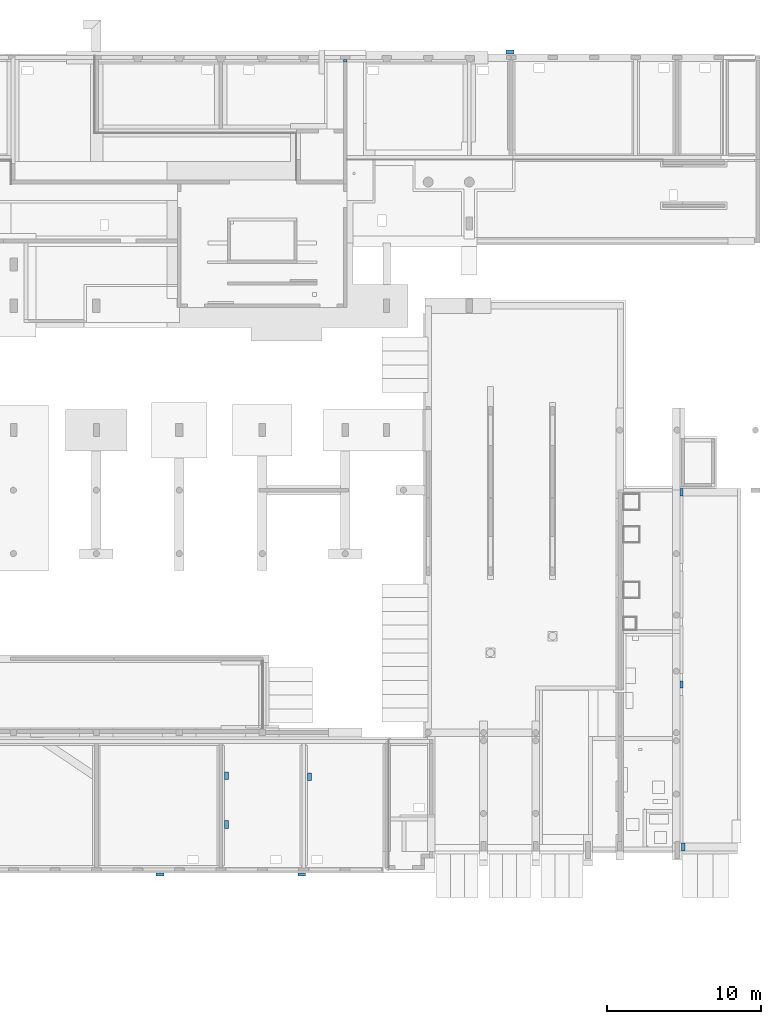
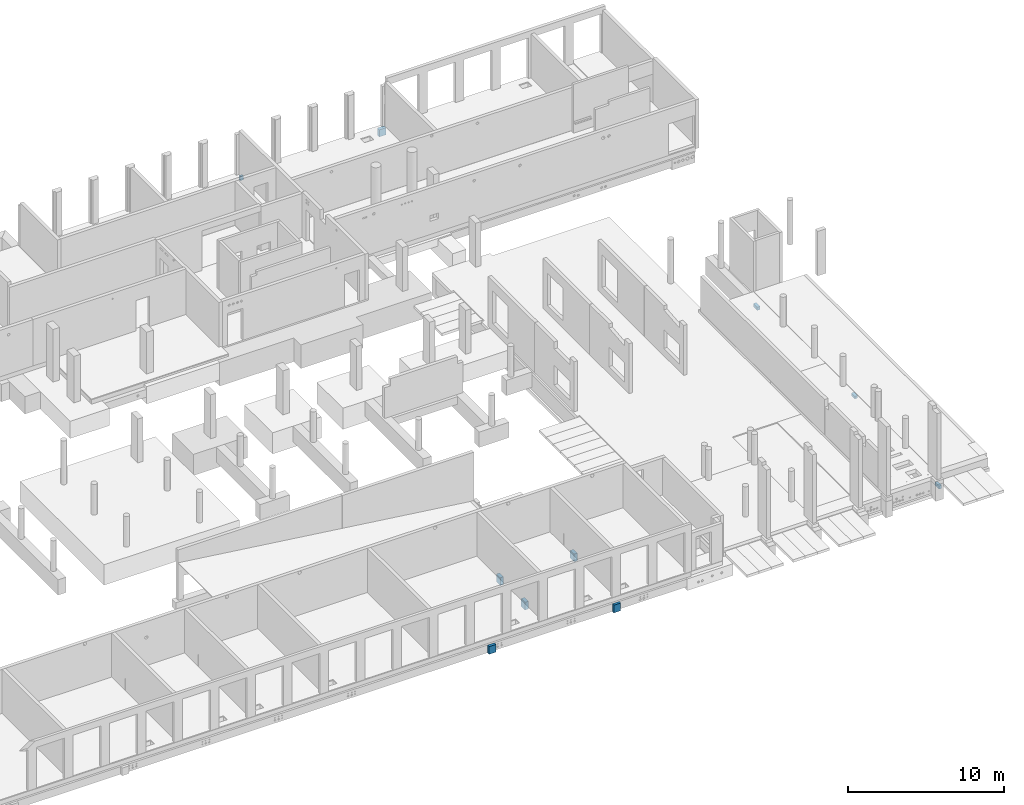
# One storey, part 11 of 60: 10 footings.
"""IFC2X3 building model written with IfcOpenShell, lengths in millimetres."""

from ifc_helpers import new_model, entity, si_unit, converted_unit, derived_unit, direction, frame, frame_2d, origin, origin_2d_with_axis, place, context, subcontext, project, spatial, rectangle, extrude, material, element, save


model = new_model("IFC2X3")

# Units and contexts
model_context = context("Model", 3, precision=0.01, world=origin(), true_north=direction((6.12303176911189e-17, 1.0)))
body_context = subcontext(model_context, "Body", "Model", "MODEL_VIEW")
ifc_project = project(units=[si_unit("LENGTHUNIT", "METRE", prefix="MILLI"), si_unit("AREAUNIT", "SQUARE_METRE"), si_unit("VOLUMEUNIT", "CUBIC_METRE"), converted_unit("PLANEANGLEUNIT", "DEGREE", entity("IfcRatioMeasure", 0.0174532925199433), si_unit("PLANEANGLEUNIT", "RADIAN"), dimensions=[0, 0, 0, 0, 0, 0, 0]), si_unit("MASSUNIT", "GRAM", prefix="KILO"), derived_unit("MASSDENSITYUNIT", [(si_unit("MASSUNIT", "GRAM", prefix="KILO"), 1), (si_unit("LENGTHUNIT", "METRE"), -3)]), si_unit("TIMEUNIT", "SECOND"), si_unit("FREQUENCYUNIT", "HERTZ"), si_unit("THERMODYNAMICTEMPERATUREUNIT", "DEGREE_CELSIUS"), derived_unit("THERMALTRANSMITTANCEUNIT", [(si_unit("MASSUNIT", "GRAM", prefix="KILO"), 1), (si_unit("THERMODYNAMICTEMPERATUREUNIT", "KELVIN"), -1), (si_unit("TIMEUNIT", "SECOND"), -3)]), derived_unit("VOLUMETRICFLOWRATEUNIT", [(si_unit("LENGTHUNIT", "METRE"), 3), (si_unit("TIMEUNIT", "SECOND"), -1)]), si_unit("ELECTRICCURRENTUNIT", "AMPERE"), si_unit("ELECTRICVOLTAGEUNIT", "VOLT"), si_unit("POWERUNIT", "WATT"), si_unit("FORCEUNIT", "NEWTON", prefix="KILO"), si_unit("ILLUMINANCEUNIT", "LUX"), si_unit("LUMINOUSFLUXUNIT", "LUMEN"), si_unit("LUMINOUSINTENSITYUNIT", "CANDELA"), derived_unit("USERDEFINED", [(si_unit("MASSUNIT", "GRAM", prefix="KILO"), -1), (si_unit("LENGTHUNIT", "METRE"), -2), (si_unit("TIMEUNIT", "SECOND"), 3), (si_unit("LUMINOUSFLUXUNIT", "LUMEN"), 1)]), derived_unit("LINEARVELOCITYUNIT", [(si_unit("LENGTHUNIT", "METRE"), 1), (si_unit("TIMEUNIT", "SECOND"), -1)]), si_unit("PRESSUREUNIT", "PASCAL"), derived_unit("USERDEFINED", [(si_unit("LENGTHUNIT", "METRE"), -2), (si_unit("MASSUNIT", "GRAM", prefix="KILO"), 1), (si_unit("TIMEUNIT", "SECOND"), -2)])], contexts=[model_context])

# Site, building, storey
site_placement = place(None, origin())
site = spatial("IfcSite", under=ifc_project, at=site_placement, Name="Default", CompositionType="ELEMENT")
building_placement = place(site_placement, origin())
building = spatial("IfcBuilding", under=site, at=building_placement, Name="niet gebruiken", CompositionType="ELEMENT")
storey_placement = place(building_placement, origin())
storey = spatial("IfcBuildingStorey", under=building, at=storey_placement, Name="00 begane grond", CompositionType="ELEMENT", Elevation=0.0)

# Footings
ifc_material = material(Name="NLRS_f2_beton ihwg")
footing_1_placement = place(storey_placement, origin())
element("IfcFooting", 1, at=footing_1_placement, inside=storey, material=ifc_material, Name="NLRS_16.12_SF_WPB_opstort ihwg recht_gen:250x332", ObjectType="NLRS_16.12_SF_WPB_opstort ihwg recht_gen:250x332", PredefinedType="FOOTING_BEAM", context=body_context, shape_type="SweptSolid", body=[
    extrude(rectangle(XDim=160.000000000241, YDim=249.999999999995, at=frame_2d((0.0, -8.66151594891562e-12), x_axis=(1.0, 0.0))), frame((97200.0, 52926.0, -492.0), z_axis=(0.0, 0.0, 1.0), x_axis=(0.0, -1.0, 0.0)), (0.0, 0.0, 1.0), 331.999999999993),
])
footing_2_placement = place(storey_placement, origin())
element("IfcFooting", 2, at=footing_2_placement, inside=storey, material=ifc_material, Name="NLRS_16.12_SF_WPB_funderingsbalk ihwg recht_gen:200x200", ObjectType="NLRS_16.12_SF_WPB_funderingsbalk ihwg recht_gen:200x200", PredefinedType="FOOTING_BEAM", context=body_context, shape_type="SweptSolid", body=[
    extrude(rectangle(XDim=449.999999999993, YDim=200.000000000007, at=frame_2d((1.08002495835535e-12, 0.0), x_axis=(1.0, 0.0))), frame((119100.0, 12326.0, -505.0), z_axis=(0.0, 0.0, 1.0), x_axis=(0.0, 1.0, 0.0)), (0.0, 0.0, 1.0), 199.999999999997),
])
footing_3_placement = place(storey_placement, origin())
element("IfcFooting", 3, at=footing_3_placement, inside=storey, material=ifc_material, Name="NLRS_16.12_SF_WPB_funderingsbalk ihwg recht_gen:200x250", ObjectType="NLRS_16.12_SF_WPB_funderingsbalk ihwg recht_gen:200x250", PredefinedType="FOOTING_BEAM", context=body_context, shape_type="SweptSolid", body=[
    extrude(rectangle(XDim=500.0, YDim=200.000000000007, at=frame_2d((1.27897692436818e-13, 0.0), x_axis=(1.0, 0.0))), frame((119200.0, 1750.0, -1170.0), z_axis=(0.0, 0.0, 1.0), x_axis=(0.0, 1.0, 0.0)), (0.0, 0.0, 1.0), 249.999999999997),
])
footing_4_placement = place(storey_placement, origin())
element("IfcFooting", 4, at=footing_4_placement, inside=storey, material=ifc_material, Name="NLRS_16.12_SF_WPB_funderingsbalk ihwg recht_gen:200x250", ObjectType="NLRS_16.12_SF_WPB_funderingsbalk ihwg recht_gen:200x250", PredefinedType="FOOTING_BEAM", context=body_context, shape_type="SweptSolid", body=[
    extrude(rectangle(XDim=499.999999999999, YDim=200.000000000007, at=origin_2d_with_axis()), frame((119100.0, 24851.0, -1170.0), z_axis=(0.0, 0.0, 1.0), x_axis=(0.0, 1.0, 0.0)), (0.0, 0.0, 1.0), 249.999999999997),
])
footing_5_placement = place(storey_placement, origin())
element("IfcFooting", 5, at=footing_5_placement, inside=storey, material=ifc_material, Name="NLRS_16.12_SF_WPB_funderingsbalk ihwg recht_gen:500x600", ObjectType="NLRS_16.12_SF_WPB_funderingsbalk ihwg recht_gen:500x600", PredefinedType="FOOTING_BEAM", context=body_context, shape_type="SweptSolid", body=[
    extrude(rectangle(XDim=250.000000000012, YDim=500.0, at=frame_2d((-8.66151594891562e-12, 0.0), x_axis=(1.0, 0.0))), frame((89475.0, 6392.86499300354, -1092.0)), (0.0, 0.0, 1.0), 599.999999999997),
])
footing_6_placement = place(storey_placement, origin())
element("IfcFooting", 6, at=footing_6_placement, inside=storey, material=ifc_material, Name="NLRS_16.12_SF_WPB_funderingsbalk ihwg recht_gen:500x600", ObjectType="NLRS_16.12_SF_WPB_funderingsbalk ihwg recht_gen:500x600", PredefinedType="FOOTING_BEAM", context=body_context, shape_type="SweptSolid", body=[
    extrude(rectangle(XDim=250.000000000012, YDim=500.0, at=frame_2d((-8.66151594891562e-12, 0.0), x_axis=(1.0, 0.0))), frame((89475.0, 3221.1560035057, -1092.0)), (0.0, 0.0, 1.0), 599.999999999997),
])
footing_7_placement = place(storey_placement, origin())
element("IfcFooting", 7, at=footing_7_placement, inside=storey, material=ifc_material, Name="NLRS_16.12_SF_WPB_funderingsbalk ihwg recht_gen:500x600", ObjectType="NLRS_16.12_SF_WPB_funderingsbalk ihwg recht_gen:500x600", PredefinedType="FOOTING_BEAM", context=body_context, shape_type="SweptSolid", body=[
    extrude(rectangle(XDim=250.000000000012, YDim=500.0, at=frame_2d((8.66151594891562e-12, 0.0), x_axis=(1.0, 0.0))), frame((94875.0, 6316.73895963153, -1092.0)), (0.0, 0.0, 1.0), 599.999999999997),
])
footing_8_placement = place(storey_placement, origin())
element("IfcFooting", 8, at=footing_8_placement, inside=storey, material=ifc_material, Name="NLRS_16.12_SF_WPB_funderingsbalk ihwg recht_gen:500x600", ObjectType="NLRS_16.12_SF_WPB_funderingsbalk ihwg recht_gen:500x600", PredefinedType="FOOTING_BEAM", context=body_context, shape_type="SweptSolid", body=[
    extrude(rectangle(XDim=200.000000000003, YDim=500.000000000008, at=frame_2d((4.05009359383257e-13, 0.0), x_axis=(1.0, 0.0))), frame((94365.3624429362, -50.0, -1092.0), z_axis=(0.0, 0.0, 1.0), x_axis=(0.0, 1.0, 0.0)), (0.0, 0.0, 1.0), 599.999999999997),
])
footing_9_placement = place(storey_placement, origin())
element("IfcFooting", 9, at=footing_9_placement, inside=storey, material=ifc_material, Name="NLRS_16.12_SF_WPB_funderingsbalk ihwg recht_gen:500x600", ObjectType="NLRS_16.12_SF_WPB_funderingsbalk ihwg recht_gen:500x600", PredefinedType="FOOTING_BEAM", context=body_context, shape_type="SweptSolid", body=[
    extrude(rectangle(XDim=200.0, YDim=500.000000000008, at=origin_2d_with_axis()), frame((85143.7061185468, -50.0, -1092.0), z_axis=(0.0, 0.0, 1.0), x_axis=(0.0, 1.0, 0.0)), (0.0, 0.0, 1.0), 599.999999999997),
])
footing_10_placement = place(storey_placement, origin())
element("IfcFooting", 10, at=footing_10_placement, inside=storey, material=ifc_material, Name="NLRS_16.12_SF_WPB_funderingsbalk ihwg recht_gen:500x550", ObjectType="NLRS_16.12_SF_WPB_funderingsbalk ihwg recht_gen:500x550", PredefinedType="FOOTING_BEAM", context=body_context, shape_type="SweptSolid", body=[
    extrude(rectangle(XDim=249.999999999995, YDim=500.000000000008, at=origin_2d_with_axis()), frame((107927.162729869, 53506.0, -1092.0), z_axis=(0.0, 0.0, 1.0), x_axis=(0.0, -1.0, 0.0)), (0.0, 0.0, 1.0), 549.999999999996),
])

save(model, "model.ifc")
